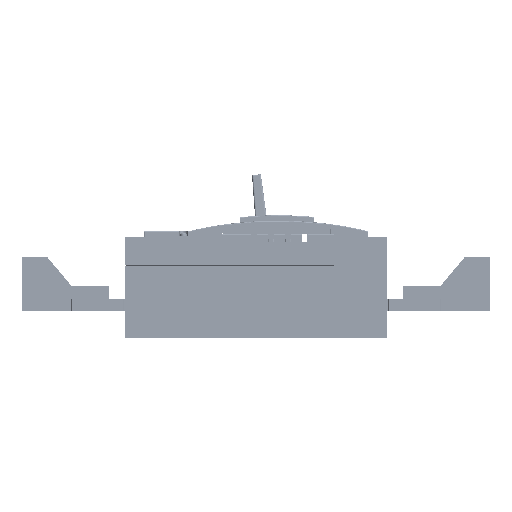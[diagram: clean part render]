
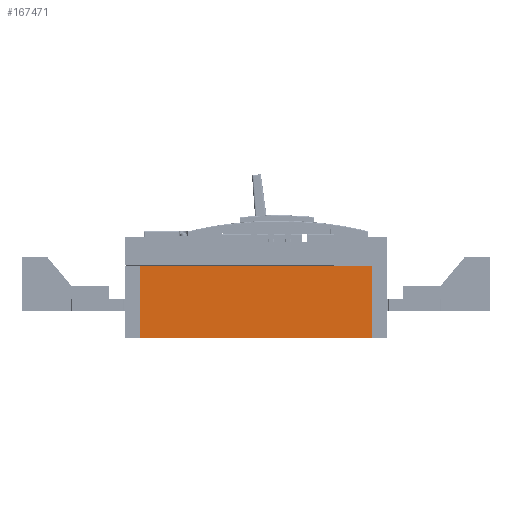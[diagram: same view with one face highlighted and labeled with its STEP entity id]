
A CAD part, left-side view. The second image highlights one B-rep face of the part: STEP entity #167471.
In plain terms, the highlighted planar face has unit normal (-1, 0, 0).
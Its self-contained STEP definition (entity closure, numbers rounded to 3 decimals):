
#38315 = CARTESIAN_POINT ( 'NONE',  ( -185.989, 138.477, -36.706 ) ) ;
#38317 = DIRECTION ( 'NONE',  ( 0., -1., 0. ) ) ;
#38319 = VECTOR ( 'NONE', #38317, 1000. ) ;
#38322 = CARTESIAN_POINT ( 'NONE',  ( -185.989, -171.523, -36.706 ) ) ;
#38324 = LINE ( 'NONE', #38322, #38319 ) ;
#38756 = CARTESIAN_POINT ( 'NONE',  ( -185.989, -171.523, -36.706 ) ) ;
#39575 = CARTESIAN_POINT ( 'NONE',  ( -185.989, -171.523, 59.794 ) ) ;
#39595 = DIRECTION ( 'NONE',  ( 0., -1., 0. ) ) ;
#39597 = VECTOR ( 'NONE', #39595, 1000. ) ;
#39599 = CARTESIAN_POINT ( 'NONE',  ( -185.989, -171.523, 59.794 ) ) ;
#39601 = LINE ( 'NONE', #39599, #39597 ) ;
#39606 = CARTESIAN_POINT ( 'NONE',  ( -185.989, 138.477, 59.794 ) ) ;
#92539 = DIRECTION ( 'NONE',  ( 0., 0., -1. ) ) ;
#92540 = VECTOR ( 'NONE', #92539, 1000. ) ;
#92542 = CARTESIAN_POINT ( 'NONE',  ( -185.989, -171.523, 59.794 ) ) ;
#92543 = LINE ( 'NONE', #92542, #92540 ) ;
#92573 = DIRECTION ( 'NONE',  ( 0., 0., -1. ) ) ;
#92574 = DIRECTION ( 'NONE',  ( 1., 0., 0. ) ) ;
#92576 = CARTESIAN_POINT ( 'NONE',  ( -185.989, -171.523, 59.794 ) ) ;
#92577 = AXIS2_PLACEMENT_3D ( 'NONE', #92576, #92574, #92573 ) ;
#92580 = PLANE ( 'NONE',  #92577 ) ;
#92629 = FACE_OUTER_BOUND ( 'NONE', #167475, .T. ) ;
#92631 = DIRECTION ( 'NONE',  ( 0., 0., -1. ) ) ;
#92632 = VECTOR ( 'NONE', #92631, 1000. ) ;
#92635 = CARTESIAN_POINT ( 'NONE',  ( -185.989, 138.477, 59.794 ) ) ;
#92636 = LINE ( 'NONE', #92635, #92632 ) ;
#149314 = EDGE_CURVE ( 'NONE', #149318, #149370, #38324, .T. ) ;
#149318 = VERTEX_POINT ( 'NONE', #38315 ) ;
#149370 = VERTEX_POINT ( 'NONE', #38756 ) ;
#149593 = VERTEX_POINT ( 'NONE', #39606 ) ;
#149596 = EDGE_CURVE ( 'NONE', #149593, #149599, #39601, .T. ) ;
#149599 = VERTEX_POINT ( 'NONE', #39575 ) ;
#167265 = ORIENTED_EDGE ( 'NONE', *, *, #167461, .T. ) ;
#167424 = ORIENTED_EDGE ( 'NONE', *, *, #149314, .T. ) ;
#167432 = ORIENTED_EDGE ( 'NONE', *, *, #167439, .F. ) ;
#167439 = EDGE_CURVE ( 'NONE', #149599, #149370, #92543, .T. ) ;
#167448 = ORIENTED_EDGE ( 'NONE', *, *, #149596, .F. ) ;
#167461 = EDGE_CURVE ( 'NONE', #149593, #149318, #92636, .T. ) ;
#167471 = ADVANCED_FACE ( 'NONE', ( #92629 ), #92580, .F. ) ;
#167475 = EDGE_LOOP ( 'NONE', ( #167265, #167424, #167432, #167448 ) ) ;
